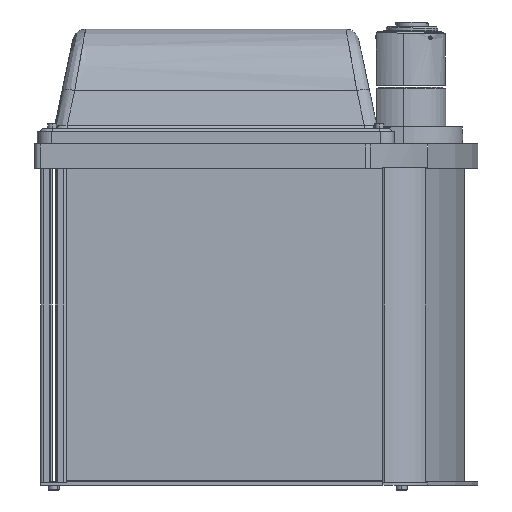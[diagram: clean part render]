
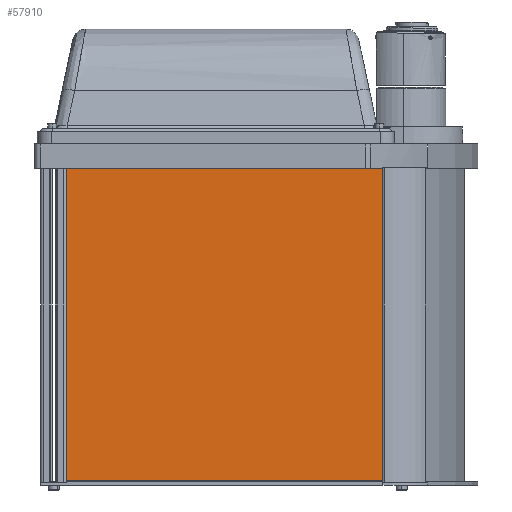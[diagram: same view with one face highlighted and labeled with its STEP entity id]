
A CAD part, left-side view. The second image highlights one B-rep face of the part: STEP entity #57910.
In plain terms, the highlighted free-form (B-spline) face has degree [1, 1] with [2, 2] control points.
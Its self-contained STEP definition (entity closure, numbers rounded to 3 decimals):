
#57910 = ADVANCED_FACE('',(#57911),#57925,.T.);
#57911 = FACE_BOUND('',#57912,.T.);
#57912 = EDGE_LOOP('',(#57913,#57935,#57950,#57965));
#57913 = ORIENTED_EDGE('',*,*,#57914,.T.);
#57914 = EDGE_CURVE('',#57915,#57917,#57919,.T.);
#57915 = VERTEX_POINT('',#57916);
#57916 = CARTESIAN_POINT('',(-156.672,11.575,-22.551));
#57917 = VERTEX_POINT('',#57918);
#57918 = CARTESIAN_POINT('',(-156.672,267.075,-22.551));
#57919 = SURFACE_CURVE('',#57920,(#57924),.PCURVE_S1.);
#57920 = LINE('',#57921,#57922);
#57921 = CARTESIAN_POINT('',(-156.672,11.575,-22.551));
#57922 = VECTOR('',#57923,1.);
#57923 = DIRECTION('',(0.,1.,0.));
#57924 = PCURVE('',#57925,#57930);
#57925 = B_SPLINE_SURFACE_WITH_KNOTS('',1,1,(
    (#57926,#57927)
    ,(#57928,#57929
    )),.UNSPECIFIED.,.F.,.F.,.F.,(2,2),(2,2),(0.,1.),(0.,1.),
  .PIECEWISE_BEZIER_KNOTS.);
#57926 = CARTESIAN_POINT('',(-156.672,11.575,221.449));
#57927 = CARTESIAN_POINT('',(-156.672,267.075,221.449));
#57928 = CARTESIAN_POINT('',(-156.672,11.575,-22.551));
#57929 = CARTESIAN_POINT('',(-156.672,267.075,-22.551));
#57930 = DEFINITIONAL_REPRESENTATION('',(#57931),#57934);
#57931 = B_SPLINE_CURVE_WITH_KNOTS('',1,(#57932,#57933),.UNSPECIFIED.,
  .F.,.F.,(2,2),(0.,255.5),.PIECEWISE_BEZIER_KNOTS.);
#57932 = CARTESIAN_POINT('',(1.,0.));
#57933 = CARTESIAN_POINT('',(1.,1.));
#57934 = ( GEOMETRIC_REPRESENTATION_CONTEXT(2) 
PARAMETRIC_REPRESENTATION_CONTEXT() REPRESENTATION_CONTEXT('',''
  ) );
#57935 = ORIENTED_EDGE('',*,*,#57936,.T.);
#57936 = EDGE_CURVE('',#57917,#57937,#57939,.T.);
#57937 = VERTEX_POINT('',#57938);
#57938 = CARTESIAN_POINT('',(-156.672,267.075,221.449));
#57939 = SURFACE_CURVE('',#57940,(#57944),.PCURVE_S1.);
#57940 = LINE('',#57941,#57942);
#57941 = CARTESIAN_POINT('',(-156.672,267.075,-22.551));
#57942 = VECTOR('',#57943,1.);
#57943 = DIRECTION('',(0.,0.,1.));
#57944 = PCURVE('',#57925,#57945);
#57945 = DEFINITIONAL_REPRESENTATION('',(#57946),#57949);
#57946 = B_SPLINE_CURVE_WITH_KNOTS('',1,(#57947,#57948),.UNSPECIFIED.,
  .F.,.F.,(2,2),(0.,244.),.PIECEWISE_BEZIER_KNOTS.);
#57947 = CARTESIAN_POINT('',(1.,1.));
#57948 = CARTESIAN_POINT('',(0.,1.));
#57949 = ( GEOMETRIC_REPRESENTATION_CONTEXT(2) 
PARAMETRIC_REPRESENTATION_CONTEXT() REPRESENTATION_CONTEXT('',''
  ) );
#57950 = ORIENTED_EDGE('',*,*,#57951,.T.);
#57951 = EDGE_CURVE('',#57937,#57952,#57954,.T.);
#57952 = VERTEX_POINT('',#57953);
#57953 = CARTESIAN_POINT('',(-156.672,11.575,221.449));
#57954 = SURFACE_CURVE('',#57955,(#57959),.PCURVE_S1.);
#57955 = LINE('',#57956,#57957);
#57956 = CARTESIAN_POINT('',(-156.672,267.075,221.449));
#57957 = VECTOR('',#57958,1.);
#57958 = DIRECTION('',(0.,-1.,0.));
#57959 = PCURVE('',#57925,#57960);
#57960 = DEFINITIONAL_REPRESENTATION('',(#57961),#57964);
#57961 = B_SPLINE_CURVE_WITH_KNOTS('',1,(#57962,#57963),.UNSPECIFIED.,
  .F.,.F.,(2,2),(0.,255.5),.PIECEWISE_BEZIER_KNOTS.);
#57962 = CARTESIAN_POINT('',(0.,1.));
#57963 = CARTESIAN_POINT('',(0.,0.));
#57964 = ( GEOMETRIC_REPRESENTATION_CONTEXT(2) 
PARAMETRIC_REPRESENTATION_CONTEXT() REPRESENTATION_CONTEXT('',''
  ) );
#57965 = ORIENTED_EDGE('',*,*,#57966,.T.);
#57966 = EDGE_CURVE('',#57952,#57915,#57967,.T.);
#57967 = SURFACE_CURVE('',#57968,(#57972),.PCURVE_S1.);
#57968 = LINE('',#57969,#57970);
#57969 = CARTESIAN_POINT('',(-156.672,11.575,221.449));
#57970 = VECTOR('',#57971,1.);
#57971 = DIRECTION('',(0.,0.,-1.));
#57972 = PCURVE('',#57925,#57973);
#57973 = DEFINITIONAL_REPRESENTATION('',(#57974),#57977);
#57974 = B_SPLINE_CURVE_WITH_KNOTS('',1,(#57975,#57976),.UNSPECIFIED.,
  .F.,.F.,(2,2),(0.,244.),.PIECEWISE_BEZIER_KNOTS.);
#57975 = CARTESIAN_POINT('',(0.,0.));
#57976 = CARTESIAN_POINT('',(1.,0.));
#57977 = ( GEOMETRIC_REPRESENTATION_CONTEXT(2) 
PARAMETRIC_REPRESENTATION_CONTEXT() REPRESENTATION_CONTEXT('',''
  ) );
